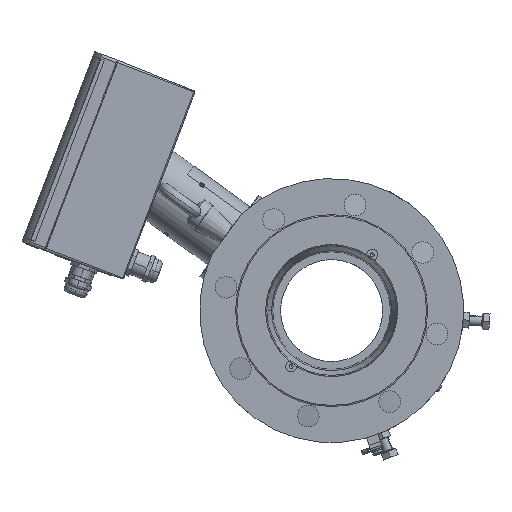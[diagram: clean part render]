
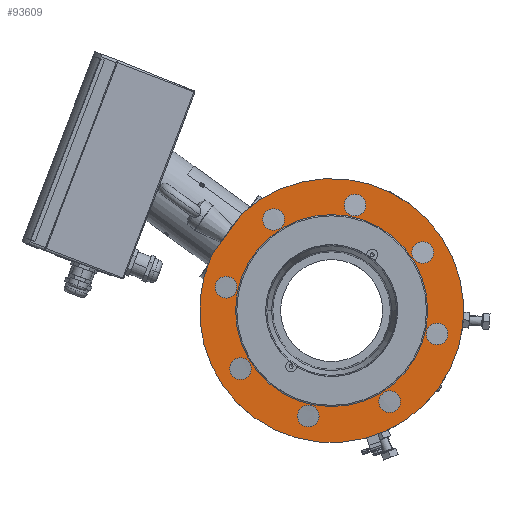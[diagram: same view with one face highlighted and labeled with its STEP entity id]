
A CAD part, left-side view. The second image highlights one B-rep face of the part: STEP entity #93609.
In plain terms, the highlighted planar face has unit normal (-1, 0, 0).
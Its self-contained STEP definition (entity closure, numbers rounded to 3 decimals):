
#21970=CARTESIAN_POINT('',(-147.,0.,0.));
#21971=DIRECTION('',(-1.,0.,0.));
#21972=DIRECTION('',(0.,0.906,0.424));
#21973=AXIS2_PLACEMENT_3D('',#21970,#21971,#21972);
#22090=DIRECTION('',(0.,-0.588,0.809));
#22091=VECTOR('',#22090,41.761);
#22092=CARTESIAN_POINT('',(-147.,99.647,46.588));
#22093=LINE('4619',#22092,#22091);
#22097=CARTESIAN_POINT('',(-147.,0.,0.));
#22098=DIRECTION('',(-1.,0.,0.));
#22099=DIRECTION('',(0.,1.,0.));
#22100=AXIS2_PLACEMENT_3D('',#22097,#22098,#22099);
#22105=CARTESIAN_POINT('',(-147.,0.,0.));
#22106=DIRECTION('',(1.,0.,0.));
#22107=DIRECTION('',(0.,1.,0.));
#22108=AXIS2_PLACEMENT_3D('',#22105,#22106,#22107);
#22113=CARTESIAN_POINT('',(-147.,87.867,19.48));
#22114=DIRECTION('',(1.,0.,0.));
#22115=DIRECTION('',(0.,1.,0.));
#22116=AXIS2_PLACEMENT_3D('',#22113,#22114,#22115);
#22121=CARTESIAN_POINT('',(-147.,87.867,19.48));
#22122=DIRECTION('',(1.,0.,0.));
#22123=DIRECTION('',(0.,-1.,0.));
#22124=AXIS2_PLACEMENT_3D('',#22121,#22122,#22123);
#22129=CARTESIAN_POINT('',(-147.,48.357,75.905));
#22130=DIRECTION('',(1.,0.,0.));
#22131=DIRECTION('',(0.,0.707,0.707));
#22132=AXIS2_PLACEMENT_3D('',#22129,#22130,#22131);
#22137=CARTESIAN_POINT('',(-147.,48.357,75.905));
#22138=DIRECTION('',(1.,0.,0.));
#22139=DIRECTION('',(0.,-0.707,-0.707));
#22140=AXIS2_PLACEMENT_3D('',#22137,#22138,#22139);
#22145=CARTESIAN_POINT('',(-147.,-19.48,87.867));
#22146=DIRECTION('',(1.,0.,0.));
#22147=DIRECTION('',(0.,0.,1.));
#22148=AXIS2_PLACEMENT_3D('',#22145,#22146,#22147);
#22153=CARTESIAN_POINT('',(-147.,-19.48,87.867));
#22154=DIRECTION('',(1.,0.,0.));
#22155=DIRECTION('',(0.,0.,-1.));
#22156=AXIS2_PLACEMENT_3D('',#22153,#22154,#22155);
#22161=CARTESIAN_POINT('',(-147.,-75.905,48.357));
#22162=DIRECTION('',(1.,0.,0.));
#22163=DIRECTION('',(0.,-0.707,0.707));
#22164=AXIS2_PLACEMENT_3D('',#22161,#22162,#22163);
#22169=CARTESIAN_POINT('',(-147.,-75.905,48.357));
#22170=DIRECTION('',(1.,0.,0.));
#22171=DIRECTION('',(0.,0.707,-0.707));
#22172=AXIS2_PLACEMENT_3D('',#22169,#22170,#22171);
#22177=CARTESIAN_POINT('',(-147.,-87.867,-19.48));
#22178=DIRECTION('',(1.,0.,0.));
#22179=DIRECTION('',(0.,-1.,0.));
#22180=AXIS2_PLACEMENT_3D('',#22177,#22178,#22179);
#22185=CARTESIAN_POINT('',(-147.,-87.867,-19.48));
#22186=DIRECTION('',(1.,0.,0.));
#22187=DIRECTION('',(0.,1.,0.));
#22188=AXIS2_PLACEMENT_3D('',#22185,#22186,#22187);
#22193=CARTESIAN_POINT('',(-147.,-48.357,-75.905));
#22194=DIRECTION('',(1.,0.,0.));
#22195=DIRECTION('',(0.,-0.707,-0.707));
#22196=AXIS2_PLACEMENT_3D('',#22193,#22194,#22195);
#22201=CARTESIAN_POINT('',(-147.,-48.357,-75.905));
#22202=DIRECTION('',(1.,0.,0.));
#22203=DIRECTION('',(0.,0.707,0.707));
#22204=AXIS2_PLACEMENT_3D('',#22201,#22202,#22203);
#22209=CARTESIAN_POINT('',(-147.,19.48,-87.867));
#22210=DIRECTION('',(1.,0.,0.));
#22211=DIRECTION('',(0.,0.,-1.));
#22212=AXIS2_PLACEMENT_3D('',#22209,#22210,#22211);
#22217=CARTESIAN_POINT('',(-147.,19.48,-87.867));
#22218=DIRECTION('',(1.,0.,0.));
#22219=DIRECTION('',(0.,0.,1.));
#22220=AXIS2_PLACEMENT_3D('',#22217,#22218,#22219);
#22225=CARTESIAN_POINT('',(-147.,75.905,-48.357));
#22226=DIRECTION('',(1.,0.,0.));
#22227=DIRECTION('',(0.,0.707,-0.707));
#22228=AXIS2_PLACEMENT_3D('',#22225,#22226,#22227);
#22233=CARTESIAN_POINT('',(-147.,75.905,-48.357));
#22234=DIRECTION('',(1.,0.,0.));
#22235=DIRECTION('',(0.,-0.707,0.707));
#22236=AXIS2_PLACEMENT_3D('',#22233,#22234,#22235);
#68359=CARTESIAN_POINT('',(-147.,96.867,19.48));
#68360=CARTESIAN_POINT('',(-147.,78.867,19.48));
#68361=VERTEX_POINT('',#68359);
#68362=VERTEX_POINT('',#68360);
#68367=CARTESIAN_POINT('',(-147.,54.721,82.269));
#68368=CARTESIAN_POINT('',(-147.,41.993,69.541));
#68369=VERTEX_POINT('',#68367);
#68370=VERTEX_POINT('',#68368);
#68375=CARTESIAN_POINT('',(-147.,-19.48,96.867));
#68376=CARTESIAN_POINT('',(-147.,-19.48,78.867));
#68377=VERTEX_POINT('',#68375);
#68378=VERTEX_POINT('',#68376);
#68383=CARTESIAN_POINT('',(-147.,-82.269,54.721));
#68384=CARTESIAN_POINT('',(-147.,-69.541,41.993));
#68385=VERTEX_POINT('',#68383);
#68386=VERTEX_POINT('',#68384);
#68391=CARTESIAN_POINT('',(-147.,-96.867,-19.48));
#68392=CARTESIAN_POINT('',(-147.,-78.867,-19.48));
#68393=VERTEX_POINT('',#68391);
#68394=VERTEX_POINT('',#68392);
#68399=CARTESIAN_POINT('',(-147.,-54.721,-82.269));
#68400=CARTESIAN_POINT('',(-147.,-41.993,-69.541));
#68401=VERTEX_POINT('',#68399);
#68402=VERTEX_POINT('',#68400);
#68407=CARTESIAN_POINT('',(-147.,19.48,-96.867));
#68408=CARTESIAN_POINT('',(-147.,19.48,-78.867));
#68409=VERTEX_POINT('',#68407);
#68410=VERTEX_POINT('',#68408);
#68415=CARTESIAN_POINT('',(-147.,82.269,-54.721));
#68416=CARTESIAN_POINT('',(-147.,69.541,-41.993));
#68417=VERTEX_POINT('',#68415);
#68418=VERTEX_POINT('',#68416);
#68519=CARTESIAN_POINT('',(-147.,80.,0.));
#68520=VERTEX_POINT('',#68519);
#68525=CARTESIAN_POINT('',(-147.,-80.,0.));
#68526=VERTEX_POINT('',#68525);
#68657=CARTESIAN_POINT('',(-147.,99.647,46.588));
#68658=CARTESIAN_POINT('',(-147.,75.101,80.374));
#68659=VERTEX_POINT('',#68657);
#68660=VERTEX_POINT('',#68658);
#93545=CARTESIAN_POINT('',(-147.,0.,0.));
#93546=DIRECTION('',(-1.,0.,0.));
#93547=DIRECTION('',(0.,1.,0.));
#93548=AXIS2_PLACEMENT_3D('',#93545,#93546,#93547);
#93549=PLANE('437',#93548);
#93550=ORIENTED_EDGE('4624',*,*,#93522,.F.);
#93552=ORIENTED_EDGE('4619',*,*,#93551,.T.);
#93553=EDGE_LOOP('437',(#93550,#93552));
#93554=FACE_OUTER_BOUND('437',#93553,.F.);
#93556=ORIENTED_EDGE('4489',*,*,#93555,.T.);
#93558=ORIENTED_EDGE('4492',*,*,#93557,.F.);
#93559=EDGE_LOOP('437',(#93556,#93558));
#93560=FACE_BOUND('437',#93559,.F.);
#93562=ORIENTED_EDGE('4351',*,*,#93561,.F.);
#93564=ORIENTED_EDGE('4352',*,*,#93563,.F.);
#93565=EDGE_LOOP('437',(#93562,#93564));
#93566=FACE_BOUND('437',#93565,.F.);
#93568=ORIENTED_EDGE('4357',*,*,#93567,.F.);
#93570=ORIENTED_EDGE('4358',*,*,#93569,.F.);
#93571=EDGE_LOOP('437',(#93568,#93570));
#93572=FACE_BOUND('437',#93571,.F.);
#93574=ORIENTED_EDGE('4363',*,*,#93573,.F.);
#93576=ORIENTED_EDGE('4364',*,*,#93575,.F.);
#93577=EDGE_LOOP('437',(#93574,#93576));
#93578=FACE_BOUND('437',#93577,.F.);
#93580=ORIENTED_EDGE('4369',*,*,#93579,.F.);
#93582=ORIENTED_EDGE('4370',*,*,#93581,.F.);
#93583=EDGE_LOOP('437',(#93580,#93582));
#93584=FACE_BOUND('437',#93583,.F.);
#93586=ORIENTED_EDGE('4375',*,*,#93585,.F.);
#93588=ORIENTED_EDGE('4376',*,*,#93587,.F.);
#93589=EDGE_LOOP('437',(#93586,#93588));
#93590=FACE_BOUND('437',#93589,.F.);
#93592=ORIENTED_EDGE('4381',*,*,#93591,.F.);
#93594=ORIENTED_EDGE('4382',*,*,#93593,.F.);
#93595=EDGE_LOOP('437',(#93592,#93594));
#93596=FACE_BOUND('437',#93595,.F.);
#93598=ORIENTED_EDGE('4387',*,*,#93597,.F.);
#93600=ORIENTED_EDGE('4388',*,*,#93599,.F.);
#93601=EDGE_LOOP('437',(#93598,#93600));
#93602=FACE_BOUND('437',#93601,.F.);
#93604=ORIENTED_EDGE('4393',*,*,#93603,.F.);
#93606=ORIENTED_EDGE('4394',*,*,#93605,.F.);
#93607=EDGE_LOOP('437',(#93604,#93606));
#93608=FACE_BOUND('437',#93607,.F.);
#21974=CIRCLE('4624',#21973,110.);
#22101=CIRCLE('4489',#22100,80.);
#22109=CIRCLE('4492',#22108,80.);
#22117=CIRCLE('4351',#22116,9.);
#22125=CIRCLE('4352',#22124,9.);
#22133=CIRCLE('4357',#22132,9.);
#22141=CIRCLE('4358',#22140,9.);
#22149=CIRCLE('4363',#22148,9.);
#22157=CIRCLE('4364',#22156,9.);
#22165=CIRCLE('4369',#22164,9.);
#22173=CIRCLE('4370',#22172,9.);
#22181=CIRCLE('4375',#22180,9.);
#22189=CIRCLE('4376',#22188,9.);
#22197=CIRCLE('4381',#22196,9.);
#22205=CIRCLE('4382',#22204,9.);
#22213=CIRCLE('4387',#22212,9.);
#22221=CIRCLE('4388',#22220,9.);
#22229=CIRCLE('4393',#22228,9.);
#22237=CIRCLE('4394',#22236,9.);
#93522=EDGE_CURVE('4624',#68659,#68660,#21974,.T.);
#93551=EDGE_CURVE('4619',#68659,#68660,#22093,.T.);
#93555=EDGE_CURVE('4489',#68520,#68526,#22101,.T.);
#93557=EDGE_CURVE('4492',#68520,#68526,#22109,.T.);
#93561=EDGE_CURVE('4351',#68361,#68362,#22117,.T.);
#93563=EDGE_CURVE('4352',#68362,#68361,#22125,.T.);
#93567=EDGE_CURVE('4357',#68369,#68370,#22133,.T.);
#93569=EDGE_CURVE('4358',#68370,#68369,#22141,.T.);
#93573=EDGE_CURVE('4363',#68377,#68378,#22149,.T.);
#93575=EDGE_CURVE('4364',#68378,#68377,#22157,.T.);
#93579=EDGE_CURVE('4369',#68385,#68386,#22165,.T.);
#93581=EDGE_CURVE('4370',#68386,#68385,#22173,.T.);
#93585=EDGE_CURVE('4375',#68393,#68394,#22181,.T.);
#93587=EDGE_CURVE('4376',#68394,#68393,#22189,.T.);
#93591=EDGE_CURVE('4381',#68401,#68402,#22197,.T.);
#93593=EDGE_CURVE('4382',#68402,#68401,#22205,.T.);
#93597=EDGE_CURVE('4387',#68409,#68410,#22213,.T.);
#93599=EDGE_CURVE('4388',#68410,#68409,#22221,.T.);
#93603=EDGE_CURVE('4393',#68417,#68418,#22229,.T.);
#93605=EDGE_CURVE('4394',#68418,#68417,#22237,.T.);
#93609=ADVANCED_FACE('437',(#93554,#93560,#93566,#93572,#93578,#93584,#93590,
#93596,#93602,#93608),#93549,.T.);
